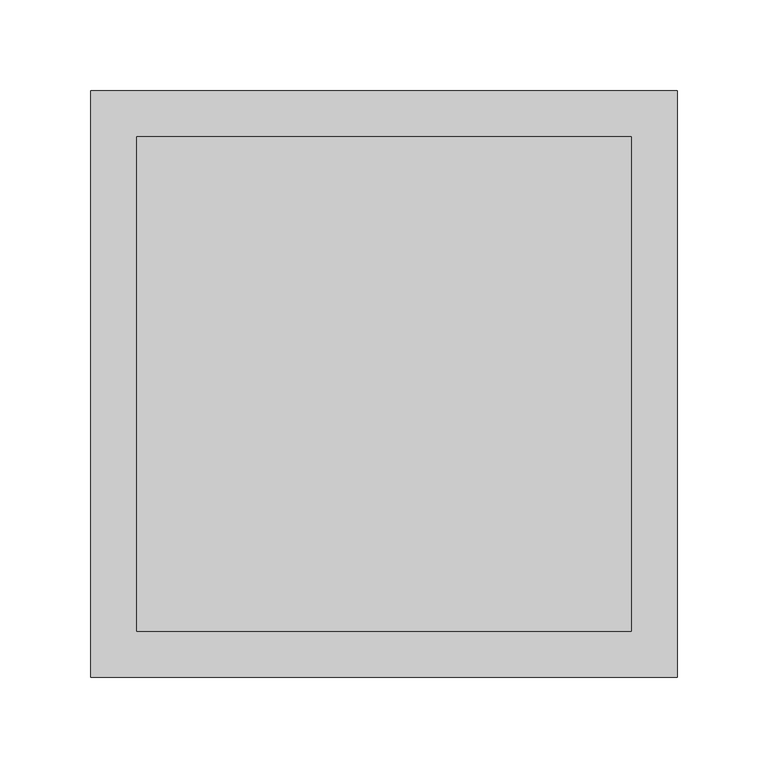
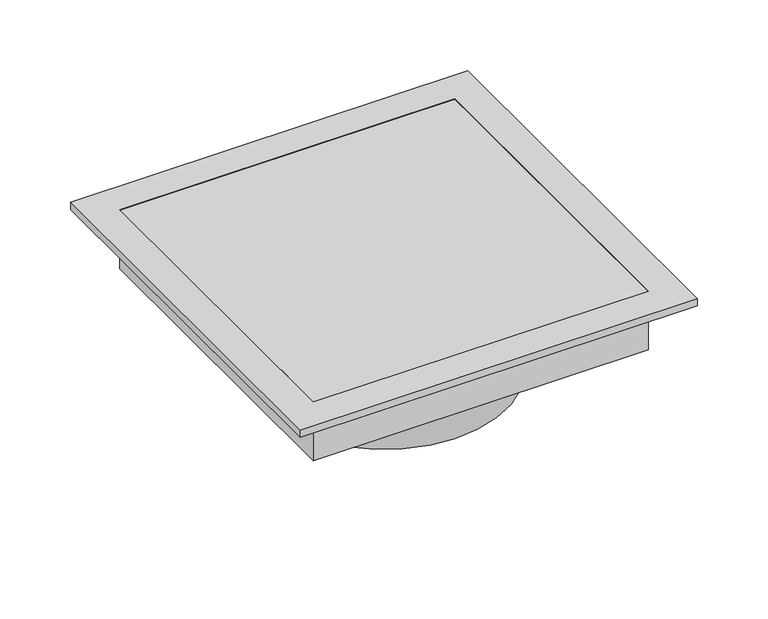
"""IFC4 building model written with IfcOpenShell, lengths in millimetres: air terminal geometry, Titus-Round_Neck_Supply_Diffuser-PCS_Surface_Mount : PCS AA-08_12x12."""

from ifc_helpers import new_model, si_unit, point, frame, origin, origin_2d, place, context, project, spatial, polyline, circle_curve, trimmed, segment, composite_curve, outline, extrude, faceted_brep, source, transform, mapped, element, save


def air_terminal_0721d01d(model_context):
    return source(origin(), model_context, "Body", "SolidModel", [
        faceted_brep([(-161.925, 161.925, 0.0), (-161.925, 161.925, 6.35), (161.925, 161.925, 6.35), (161.925, 161.925, 0.0), (-136.525, 136.525, 6.35), (-136.525, 136.525, 5.55625), (136.525, 136.525, 5.55625), (136.525, 136.525, 6.35), (161.925, -161.925, 6.35), (161.925, -161.925, 0.0), (136.525, -136.525, 5.55625), (136.525, -136.525, 6.35), (-161.925, -161.925, 6.35), (-161.925, -161.925, 0.0), (-136.525, -136.525, 5.55625), (-136.525, -136.525, 6.35), (-161.13125, 161.13125, 0.0), (-161.13125, -161.13125, 0.0), (161.13125, -161.13125, 0.0), (161.13125, 161.13125, 0.0), (-161.13125, 161.13125, 5.55625), (161.13125, 161.13125, 5.55625), (161.13125, -161.13125, 5.55625), (-161.13125, -161.13125, 5.55625)], [[[0, 1, 2, 3]], [[4, 5, 6, 7]], [[3, 2, 8, 9]], [[7, 6, 10, 11]], [[9, 8, 12, 13]], [[11, 10, 14, 15]], [[1, 12, 8, 2], [7, 11, 15, 4]], [[13, 12, 1, 0]], [[3, 9, 13, 0], [16, 17, 18, 19]], [[15, 14, 5, 4]], [[20, 16, 19, 21]], [[21, 19, 18, 22]], [[22, 18, 17, 23]], [[23, 17, 16, 20]], [[21, 22, 23, 20], [5, 14, 10, 6]]]),
        faceted_brep([(136.525, 136.525, -44.45), (136.525, -136.525, -44.45), (-136.525, -136.525, -44.45), (-136.525, 136.525, -44.45), (-136.525, 136.525, -1.5875), (-136.525, 136.525, 4.7625), (136.525, 136.525, 4.7625), (136.525, 136.525, -1.5875), (-136.525, -136.525, -1.5875), (-136.525, -136.525, 4.7625), (136.525, -136.525, -1.5875), (136.525, -136.525, 4.7625), (149.225, 149.225, 5.55625), (-149.225, 149.225, 5.55625), (-149.225, -149.225, 5.55625), (149.225, -149.225, 5.55625), (149.225, 149.225, 4.7625), (149.225, -149.225, 4.7625), (-149.225, -149.225, 4.7625), (-149.225, 149.225, 4.7625)], [[[0, 1, 2, 3]], [[0, 3, 4, 5, 6, 7]], [[3, 2, 8, 9, 5, 4]], [[2, 1, 10, 11, 9, 8]], [[1, 0, 7, 6, 11, 10]], [[12, 13, 14, 15]], [[16, 17, 18, 19], [6, 5, 9, 11]], [[13, 12, 16, 19]], [[14, 13, 19, 18]], [[15, 14, 18, 17]], [[12, 15, 17, 16]]]),
        extrude(outline(polyline([(136.525, 136.525), (136.525, -136.525), (-136.525, -136.525), (-136.525, 136.525), (136.525, 136.525)])), frame((0.0, 0.0, 5.55625), z_axis=(0.0, 0.0, 1.0), x_axis=(1.0, 0.0, 0.0)), (0.0, 0.0, 1.0), 0.79375),
        extrude(outline(composite_curve([segment(trimmed(circle_curve(origin_2d(), 100.0125), [point((-100.0125, 0.0))], [point((100.0125, 0.0))], False, "CARTESIAN"), True, "CONTINUOUS"), segment(trimmed(circle_curve(origin_2d(), 100.0125), [point((100.0125, 0.0))], [point((-100.0125, 0.0))], False, "CARTESIAN"), True, "CONTINUOUS")], self_intersect=False), holes=[composite_curve([segment(trimmed(circle_curve(origin_2d(), 98.425), [point((-98.425, 0.0))], [point((98.425, 0.0))], True, "CARTESIAN"), True, "CONTINUOUS"), segment(trimmed(circle_curve(origin_2d(), 98.425), [point((98.425, 0.0))], [point((-98.425, 0.0))], True, "CARTESIAN"), True, "CONTINUOUS")], self_intersect=False)]), frame((0.0, 0.0, -95.25), z_axis=(0.0, 0.0, 1.0), x_axis=(1.0, 0.0, 0.0)), (0.0, 0.0, 1.0), 50.8),
    ])


if __name__ == "__main__":
    model = new_model("IFC4")
    model_context = context("Model", 3, world=origin())
    ifc_project = project(units=[si_unit("LENGTHUNIT", "METRE", prefix="MILLI")], contexts=[model_context])
    site = spatial("IfcSite", under=ifc_project)
    building = spatial("IfcBuilding", under=site)
    placement = place(None, origin())
    air_terminal_shape = air_terminal_0721d01d(model_context)
    element("IfcAirTerminal", 1, ObjectType="Titus-Round_Neck_Supply_Diffuser-PCS_Surface_Mount : PCS AA-08_12x12", at=placement, inside=building, context=model_context, shape_type="MappedRepresentation", body=[
        mapped(air_terminal_shape, transform((0.0, 0.0, 0.0), x_axis=(1.0, 0.0, 0.0), y_axis=(0.0, 1.0, 0.0), z_axis=(0.0, 0.0, 1.0))),
    ])
    save(model, "model.ifc")
